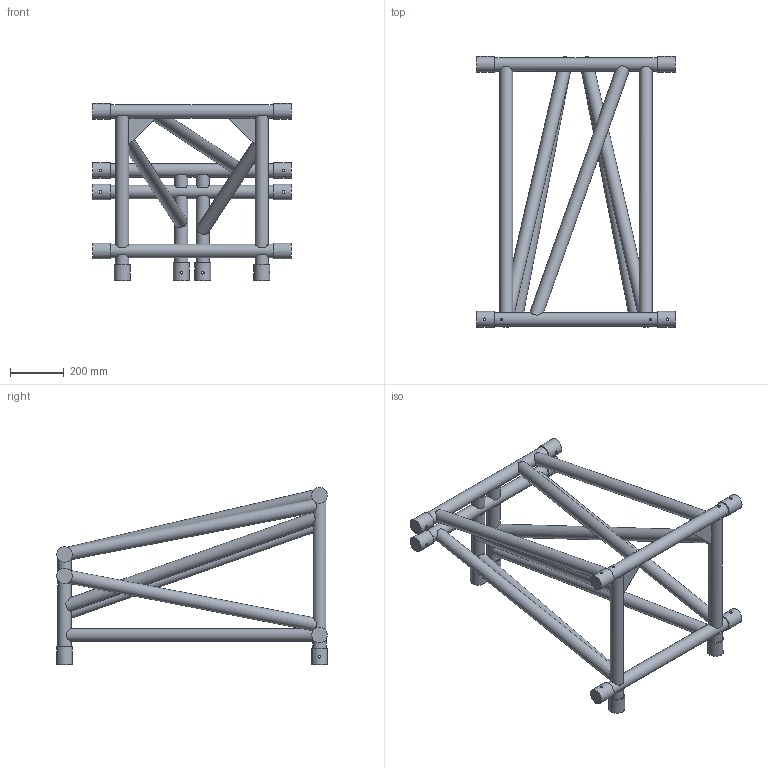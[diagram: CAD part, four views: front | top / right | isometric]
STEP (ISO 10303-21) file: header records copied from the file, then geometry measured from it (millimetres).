
FILE_DESCRIPTION(/* description */ (''),/* implementation_level */ '2;1');
FILE_NAME(/* name */ 'M:\Symbolen_NIEUW\STP\Corners\S100F\S100F-C017_111110027.stp',/* time_stamp */ '2017-11-30T16:49:11+01:00',/* author */ ('Kees'),/* organization */ (''),/* preprocessor_version */ 'ST-DEVELOPER v16.13',/* originating_system */ 'Autodesk Inventor 2018',/* authorisation */ '');
FILE_SCHEMA (('AUTOMOTIVE_DESIGN { 1 0 10303 214 3 1 1 }'));
Length unit declared in the file: millimetre
Products named in the file (1): 260010367
Bounding box: 740 x 1008.66 x 659.4 mm (x, y, z)
Volume: 25588657 mm3; surface area: 2156121.1 mm2
Topology: 4 solids, 4 shells, 211 faces, 530 edges, 335 vertices
Faces by surface type: plane 122, cylinder 73, cone 16
Full cylindrical faces by diameter (mm): 10 x12, 48.3 x9, 50 x12, 58.8 x12
Entity records: 8349 total; most frequent: CARTESIAN_POINT 3346, DIRECTION 957, ORIENTED_EDGE 918, EDGE_CURVE 459, AXIS2_PLACEMENT_3D 411, VERTEX_POINT 334, EDGE_LOOP 325, STYLED_ITEM 206
